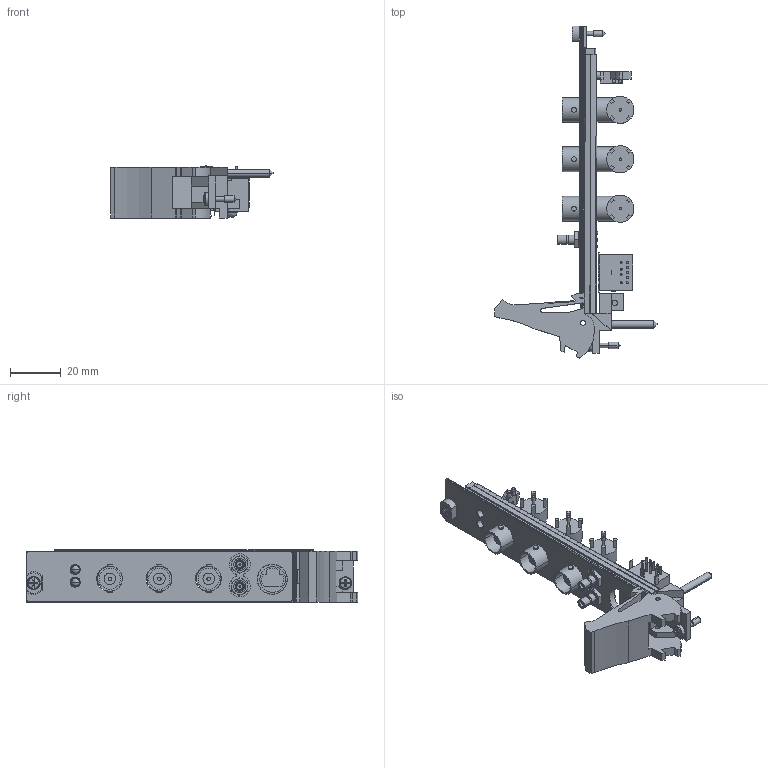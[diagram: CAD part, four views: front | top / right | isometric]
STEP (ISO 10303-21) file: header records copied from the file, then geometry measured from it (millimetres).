
FILE_DESCRIPTION((''),'2;1');
FILE_NAME('CU_PXI-5922','2009-11-11T',('jjorden'),(''),'PRO/ENGINEER BY PARAMETRIC TECHNOLOGY CORPORATION, 2006080','PRO/ENGINEER BY PARAMETRIC TECHNOLOGY CORPORATION, 2006080','');
FILE_SCHEMA(('CONFIG_CONTROL_DESIGN'));
Length unit declared in the file: inch
Products named in the file (1): CU_PXI-5922
Bounding box: 63.73 x 130.52 x 20.49 mm (x, y, z)
Volume: 22652.9 mm3; surface area: 22179.3 mm2
Topology: 9 solids, 9 shells, 888 faces, 2291 edges, 1467 vertices
Faces by surface type: plane 548, cylinder 276, cone 40, sphere 12, bspline 6, torus 6
Entity records: 30045 total; most frequent: CARTESIAN_POINT 8040, ORIENTED_EDGE 4558, DIRECTION 4538, EDGE_CURVE 2279, AXIS2_PLACEMENT_3D 1531, VERTEX_POINT 1486, VECTOR 1476, LINE 1476
